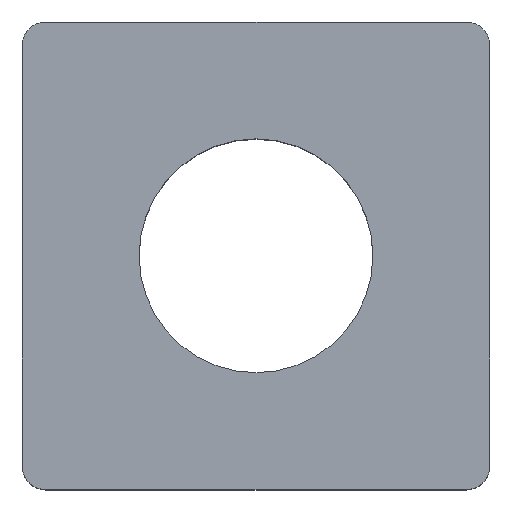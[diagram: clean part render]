
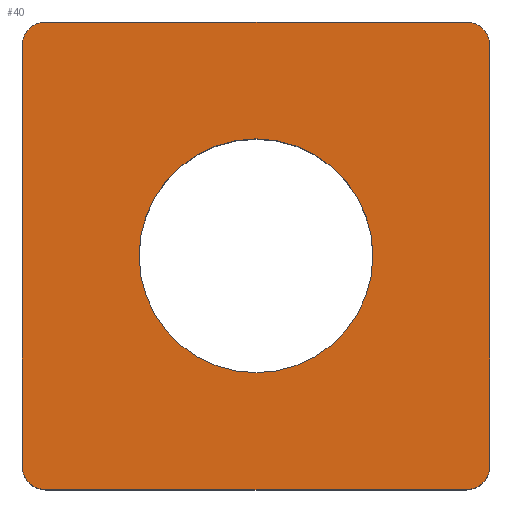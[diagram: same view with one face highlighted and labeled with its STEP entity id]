
A CAD part, top view. The second image highlights one B-rep face of the part: STEP entity #40.
In plain terms, the highlighted planar face has unit normal (0, 0, 1).
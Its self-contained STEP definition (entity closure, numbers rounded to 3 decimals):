
#1 = EDGE_CURVE ( 'NONE', #335, #411, #278, .T. ) ;
#5 = CARTESIAN_POINT ( 'NONE',  ( 4.5, -4.5, 2.5 ) ) ;
#9 = DIRECTION ( 'NONE',  ( 1., 0., 0. ) ) ;
#10 = CARTESIAN_POINT ( 'NONE',  ( 5., 4.5, 2.5 ) ) ;
#18 = ORIENTED_EDGE ( 'NONE', *, *, #48, .T. ) ;
#20 = CIRCLE ( 'NONE', #157, 0.5 ) ;
#21 = VERTEX_POINT ( 'NONE', #263 ) ;
#25 = CARTESIAN_POINT ( 'NONE',  ( 0., 0., 2.5 ) ) ;
#29 = VECTOR ( 'NONE', #79, 1000. ) ;
#30 = DIRECTION ( 'NONE',  ( 1., 0., 0. ) ) ;
#31 = EDGE_CURVE ( 'NONE', #81, #250, #84, .T. ) ;
#36 = DIRECTION ( 'NONE',  ( 0., 0., 1. ) ) ;
#40 = ADVANCED_FACE ( 'NONE', ( #107, #317 ), #189, .T. ) ;
#43 = EDGE_CURVE ( 'NONE', #265, #339, #305, .T. ) ;
#44 = VERTEX_POINT ( 'NONE', #141 ) ;
#46 = DIRECTION ( 'NONE',  ( 0., 0., 1. ) ) ;
#48 = EDGE_CURVE ( 'NONE', #250, #44, #20, .T. ) ;
#49 = DIRECTION ( 'NONE',  ( 1., 0., 0. ) ) ;
#54 = EDGE_CURVE ( 'NONE', #21, #67, #194, .T. ) ;
#57 = EDGE_CURVE ( 'NONE', #171, #335, #387, .T. ) ;
#58 = LINE ( 'NONE', #114, #412 ) ;
#62 = CIRCLE ( 'NONE', #423, 0.5 ) ;
#67 = VERTEX_POINT ( 'NONE', #419 ) ;
#72 = CARTESIAN_POINT ( 'NONE',  ( -4.5, 4.5, 2.5 ) ) ;
#74 = DIRECTION ( 'NONE',  ( 0., 0., 1. ) ) ;
#79 = DIRECTION ( 'NONE',  ( -1., 0., 0. ) ) ;
#81 = VERTEX_POINT ( 'NONE', #373 ) ;
#83 = DIRECTION ( 'NONE',  ( 0., 0., 1. ) ) ;
#84 = LINE ( 'NONE', #205, #29 ) ;
#86 = DIRECTION ( 'NONE',  ( 1., 0., 0. ) ) ;
#87 = EDGE_LOOP ( 'NONE', ( #204, #360 ) ) ;
#102 = DIRECTION ( 'NONE',  ( 1., 0., 0. ) ) ;
#104 = DIRECTION ( 'NONE',  ( 0., 0., 1. ) ) ;
#107 = FACE_BOUND ( 'NONE', #87, .T. ) ;
#108 = CARTESIAN_POINT ( 'NONE',  ( 0., 0., 2.5 ) ) ;
#114 = CARTESIAN_POINT ( 'NONE',  ( -5., -5., 2.5 ) ) ;
#117 = DIRECTION ( 'NONE',  ( 0., -1., 0. ) ) ;
#118 = EDGE_CURVE ( 'NONE', #411, #81, #62, .T. ) ;
#119 = CARTESIAN_POINT ( 'NONE',  ( -5., 5., 2.5 ) ) ;
#121 = ORIENTED_EDGE ( 'NONE', *, *, #54, .T. ) ;
#123 = CARTESIAN_POINT ( 'NONE',  ( -2.5, 0., 2.5 ) ) ;
#126 = CARTESIAN_POINT ( 'NONE',  ( 5., -4.5, 2.5 ) ) ;
#141 = CARTESIAN_POINT ( 'NONE',  ( -5., 4.5, 2.5 ) ) ;
#153 = VECTOR ( 'NONE', #117, 1000. ) ;
#157 = AXIS2_PLACEMENT_3D ( 'NONE', #72, #83, #49 ) ;
#160 = AXIS2_PLACEMENT_3D ( 'NONE', #422, #36, #30 ) ;
#161 = DIRECTION ( 'NONE',  ( 1., 0., 0. ) ) ;
#166 = AXIS2_PLACEMENT_3D ( 'NONE', #5, #301, #399 ) ;
#171 = VERTEX_POINT ( 'NONE', #289 ) ;
#189 = PLANE ( 'NONE',  #295 ) ;
#194 = CIRCLE ( 'NONE', #160, 0.5 ) ;
#195 = CARTESIAN_POINT ( 'NONE',  ( 5., 5., 2.5 ) ) ;
#204 = ORIENTED_EDGE ( 'NONE', *, *, #43, .F. ) ;
#205 = CARTESIAN_POINT ( 'NONE',  ( -5., 5., 2.5 ) ) ;
#208 = VECTOR ( 'NONE', #336, 1000. ) ;
#229 = CARTESIAN_POINT ( 'NONE',  ( 2.5, 0., 2.5 ) ) ;
#243 = CARTESIAN_POINT ( 'NONE',  ( -4.5, 5., 2.5 ) ) ;
#250 = VERTEX_POINT ( 'NONE', #243 ) ;
#255 = CIRCLE ( 'NONE', #446, 2.5 ) ;
#263 = CARTESIAN_POINT ( 'NONE',  ( -5., -4.5, 2.5 ) ) ;
#265 = VERTEX_POINT ( 'NONE', #229 ) ;
#278 = LINE ( 'NONE', #195, #208 ) ;
#287 = CARTESIAN_POINT ( 'NONE',  ( -5., 5., 2.5 ) ) ;
#289 = CARTESIAN_POINT ( 'NONE',  ( 4.5, -5., 2.5 ) ) ;
#291 = DIRECTION ( 'NONE',  ( 1., 0., 0. ) ) ;
#293 = DIRECTION ( 'NONE',  ( 0., 0., 1. ) ) ;
#295 = AXIS2_PLACEMENT_3D ( 'NONE', #287, #46, #161 ) ;
#298 = CARTESIAN_POINT ( 'NONE',  ( 4.5, 4.5, 2.5 ) ) ;
#301 = DIRECTION ( 'NONE',  ( 0., 0., 1. ) ) ;
#303 = AXIS2_PLACEMENT_3D ( 'NONE', #25, #74, #9 ) ;
#305 = CIRCLE ( 'NONE', #303, 2.5 ) ;
#315 = ORIENTED_EDGE ( 'NONE', *, *, #118, .T. ) ;
#317 = FACE_OUTER_BOUND ( 'NONE', #328, .T. ) ;
#328 = EDGE_LOOP ( 'NONE', ( #402, #18, #443, #121, #377, #347, #397, #315 ) ) ;
#335 = VERTEX_POINT ( 'NONE', #126 ) ;
#336 = DIRECTION ( 'NONE',  ( 0., 1., 0. ) ) ;
#339 = VERTEX_POINT ( 'NONE', #123 ) ;
#345 = EDGE_CURVE ( 'NONE', #44, #21, #362, .T. ) ;
#347 = ORIENTED_EDGE ( 'NONE', *, *, #57, .T. ) ;
#350 = EDGE_CURVE ( 'NONE', #339, #265, #255, .T. ) ;
#358 = EDGE_CURVE ( 'NONE', #67, #171, #58, .T. ) ;
#360 = ORIENTED_EDGE ( 'NONE', *, *, #350, .F. ) ;
#362 = LINE ( 'NONE', #119, #153 ) ;
#373 = CARTESIAN_POINT ( 'NONE',  ( 4.5, 5., 2.5 ) ) ;
#377 = ORIENTED_EDGE ( 'NONE', *, *, #358, .T. ) ;
#387 = CIRCLE ( 'NONE', #166, 0.5 ) ;
#397 = ORIENTED_EDGE ( 'NONE', *, *, #1, .T. ) ;
#399 = DIRECTION ( 'NONE',  ( 1., 0., 0. ) ) ;
#402 = ORIENTED_EDGE ( 'NONE', *, *, #31, .T. ) ;
#411 = VERTEX_POINT ( 'NONE', #10 ) ;
#412 = VECTOR ( 'NONE', #86, 1000. ) ;
#419 = CARTESIAN_POINT ( 'NONE',  ( -4.5, -5., 2.5 ) ) ;
#422 = CARTESIAN_POINT ( 'NONE',  ( -4.5, -4.5, 2.5 ) ) ;
#423 = AXIS2_PLACEMENT_3D ( 'NONE', #298, #293, #291 ) ;
#443 = ORIENTED_EDGE ( 'NONE', *, *, #345, .T. ) ;
#446 = AXIS2_PLACEMENT_3D ( 'NONE', #108, #104, #102 ) ;
